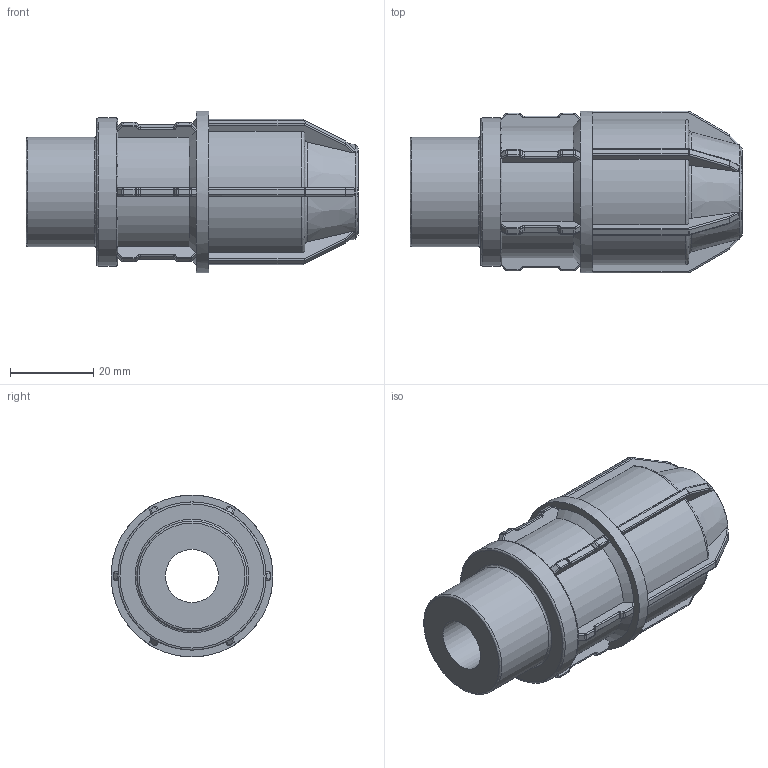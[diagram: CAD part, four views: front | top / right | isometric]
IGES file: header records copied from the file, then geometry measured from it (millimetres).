
Global section: file name: 140200016007.ipt; native system: Autodesk Inventor 2015; preprocessor: unknown; author: KIM; date: 20180409.130926; units: millimetre
Bounding box: 80 x 39 x 39 mm (x, y, z)
Volume: 49104.8 mm3; surface area: 15226.9 mm2
Topology: 1 solids, 1 shells, 466 faces, 1167 edges, 697 vertices
Faces by surface type: cylinder 171, plane 159, revolution 129, cone 7
Full cylindrical faces by diameter (mm): 26.441 x1, 35.695 x1, 39 x1
